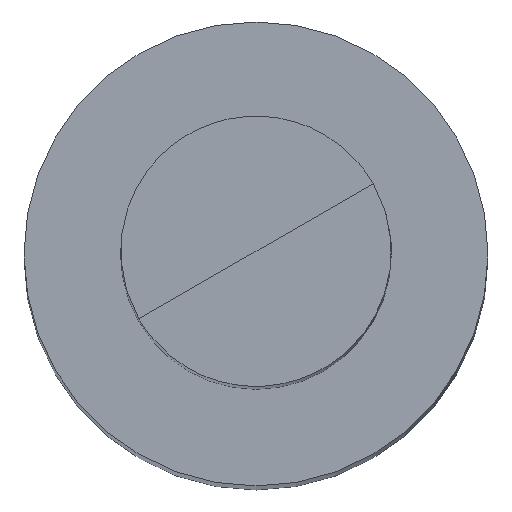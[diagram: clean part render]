
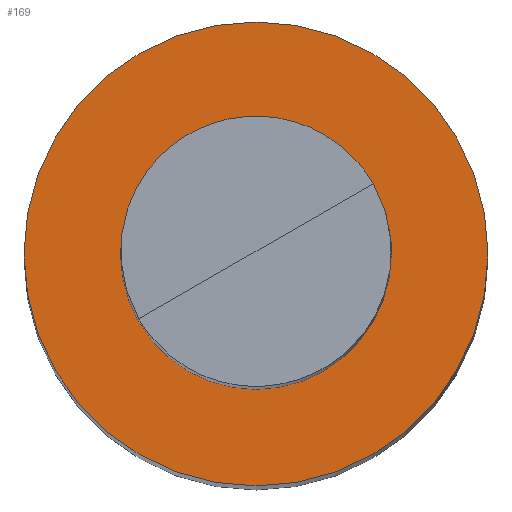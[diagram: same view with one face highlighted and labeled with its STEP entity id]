
A CAD part, top view. The second image highlights one B-rep face of the part: STEP entity #169.
In plain terms, the highlighted planar face has unit normal (0, 0, 1).
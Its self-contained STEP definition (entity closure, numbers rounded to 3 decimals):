
#108=CARTESIAN_POINT('',(1.75,0.,30.0));
#109=VERTEX_POINT('',#108);
#110=CARTESIAN_POINT('',(0.0,0.0,30.0));
#111=DIRECTION('',(0.0,0.0,-1.0));
#112=DIRECTION('',(-1.0,0.0,0.0));
#113=AXIS2_PLACEMENT_3D('',#110,#111,#112);
#114=CIRCLE('',#113,1.75);
#115=EDGE_CURVE('',#109,#109,#114,.T.);
#135=CARTESIAN_POINT('',(3.,0.,30.0));
#136=VERTEX_POINT('',#135);
#137=CARTESIAN_POINT('',(0.0,0.0,30.0));
#138=DIRECTION('',(0.0,0.0,-1.0));
#139=DIRECTION('',(-1.0,0.0,0.0));
#140=AXIS2_PLACEMENT_3D('',#137,#138,#139);
#141=CIRCLE('',#140,3.);
#142=EDGE_CURVE('',#136,#136,#141,.T.);
#158=CARTESIAN_POINT('',(0.0,0.0,30.0));
#159=DIRECTION('',(0.0,0.0,-1.0));
#160=DIRECTION('',(-1.0,0.0,0.0));
#161=AXIS2_PLACEMENT_3D('',#158,#159,#160);
#162=PLANE('',#161);
#163=ORIENTED_EDGE('',*,*,#142,.F.);
#164=EDGE_LOOP('',(#163));
#165=FACE_OUTER_BOUND('',#164,.T.);
#166=ORIENTED_EDGE('',*,*,#115,.T.);
#167=EDGE_LOOP('',(#166));
#168=FACE_BOUND('',#167,.T.);
#169=ADVANCED_FACE('',(#165,#168),#162,.F.);
